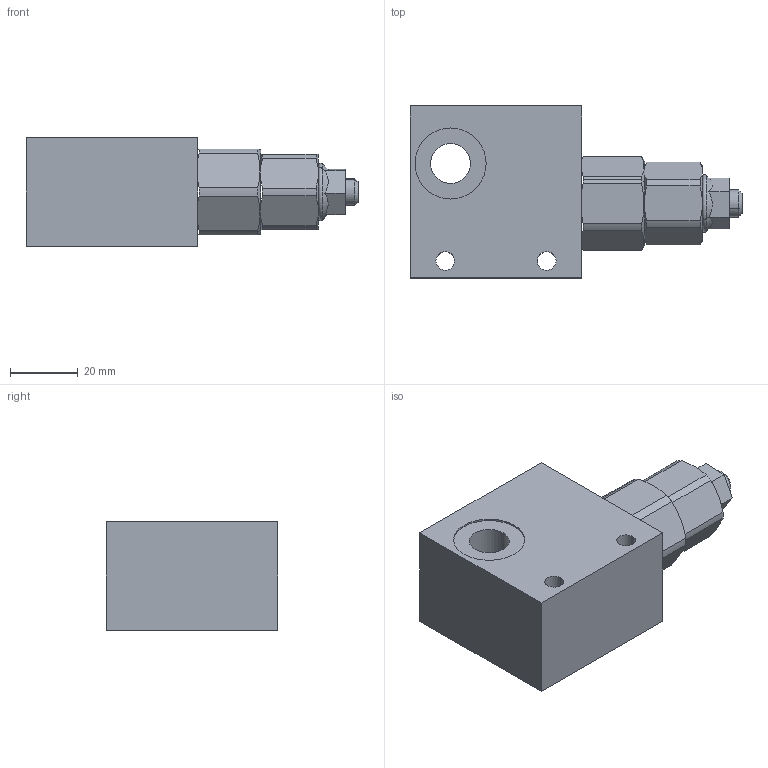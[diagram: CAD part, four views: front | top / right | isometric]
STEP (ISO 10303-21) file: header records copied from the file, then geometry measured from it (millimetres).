
FILE_DESCRIPTION (( 'STEP AP214' ), '1' );
FILE_NAME ('VDA14001.STEP', '2025-06-03T00:16:36', ( '' ), ( '' ), 'SwSTEP 2.0', 'SolidWorks 2023', '' );
FILE_SCHEMA (( 'AUTOMOTIVE_DESIGN' ));
Length unit declared in the file: millimetre
Products named in the file (1): VDA14001
Bounding box: 98.1 x 50.8 x 32 mm (x, y, z)
Surface area: 18206.1 mm2 (no closed solid volume)
Topology: 0 solids, 5 shells, 92 faces, 250 edges, 168 vertices
Faces by surface type: plane 38, cylinder 32, cone 20, torus 2
Entity records: 3196 total; most frequent: CARTESIAN_POINT 869, DIRECTION 490, ORIENTED_EDGE 448, EDGE_CURVE 250, AXIS2_PLACEMENT_3D 191, VERTEX_POINT 168, EDGE_LOOP 109, LINE 108
